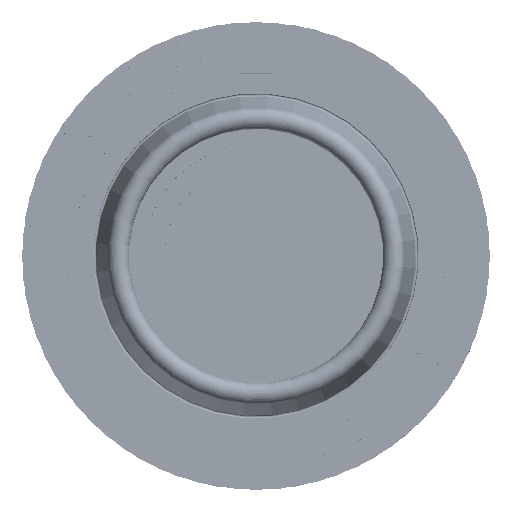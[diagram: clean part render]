
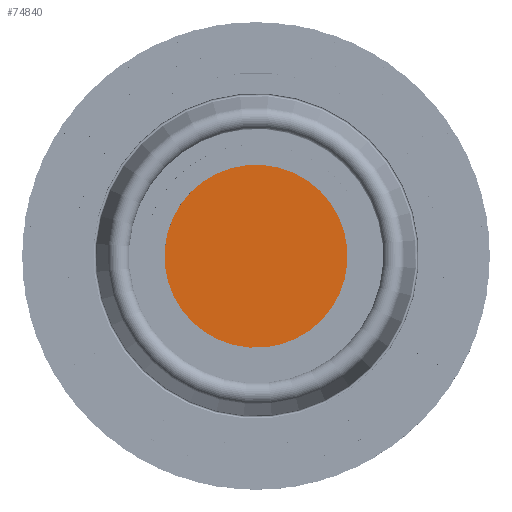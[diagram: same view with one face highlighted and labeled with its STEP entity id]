
A CAD part, top view. The second image highlights one B-rep face of the part: STEP entity #74840.
In plain terms, the highlighted planar face has unit normal (0, 0, 1).
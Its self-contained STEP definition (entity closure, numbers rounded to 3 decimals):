
#50211 = AXIS2_PLACEMENT_3D ( 'NONE', #55690, #55692, #55694 ) ;
#50212 = CIRCLE ( 'NONE', #50211, 45. ) ;
#51459 = EDGE_CURVE ( 'NONE', #57172, #57173, #50212, .T. ) ;
#55690 = CARTESIAN_POINT ( 'NONE',  ( 0., 0., -89. ) ) ;
#55692 = DIRECTION ( 'NONE',  ( 0., 0., 1. ) ) ;
#55694 = DIRECTION ( 'NONE',  ( -0.699, -0.715, 0. ) ) ;
#57172 = VERTEX_POINT ( 'NONE', #68800 ) ;
#57173 = VERTEX_POINT ( 'NONE', #68804 ) ;
#68800 = CARTESIAN_POINT ( 'NONE',  ( 31.453, 32.183, -89. ) ) ;
#68804 = CARTESIAN_POINT ( 'NONE',  ( -31.453, -32.183, -89. ) ) ;
#73638 = EDGE_CURVE ( 'NONE', #57173, #57172, #97794, .T. ) ;
#74840 = ADVANCED_FACE ( 'NONE', ( #104856 ), #104858, .T. ) ;
#85407 = ORIENTED_EDGE ( 'NONE', *, *, #73638, .T. ) ;
#85408 = ORIENTED_EDGE ( 'NONE', *, *, #51459, .T. ) ;
#87333 = EDGE_LOOP ( 'NONE', ( #85407, #85408 ) ) ;
#97794 = CIRCLE ( 'NONE', #97797, 45. ) ;
#97797 = AXIS2_PLACEMENT_3D ( 'NONE', #98834, #98835, #98836 ) ;
#98834 = CARTESIAN_POINT ( 'NONE',  ( 0., 0., -89. ) ) ;
#98835 = DIRECTION ( 'NONE',  ( 0., 0., 1. ) ) ;
#98836 = DIRECTION ( 'NONE',  ( -0.699, -0.715, 0. ) ) ;
#102152 = AXIS2_PLACEMENT_3D ( 'NONE', #104833, #104864, #104866 ) ;
#104833 = CARTESIAN_POINT ( 'NONE',  ( 0., 0., -89. ) ) ;
#104856 = FACE_OUTER_BOUND ( 'NONE', #87333, .T. ) ;
#104858 = PLANE ( 'NONE',  #102152 ) ;
#104864 = DIRECTION ( 'NONE',  ( 0., 0., 1. ) ) ;
#104866 = DIRECTION ( 'NONE',  ( -0.699, -0.715, 0. ) ) ;
